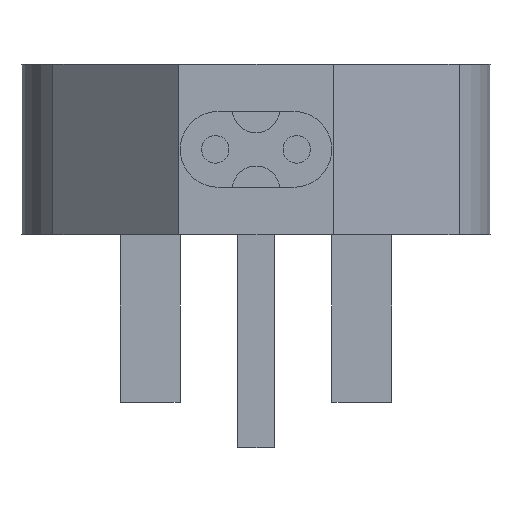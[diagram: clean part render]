
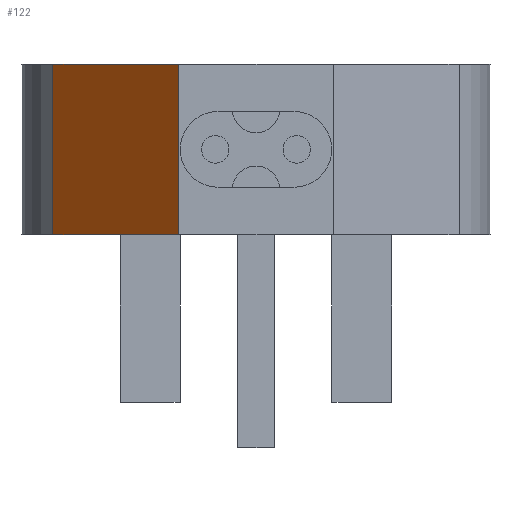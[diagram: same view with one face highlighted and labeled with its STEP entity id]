
A CAD part, front view. The second image highlights one B-rep face of the part: STEP entity #122.
In plain terms, the highlighted planar face has unit normal (-0.719, -0.695, 0).
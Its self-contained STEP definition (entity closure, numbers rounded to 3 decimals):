
#122 = ADVANCED_FACE( '', ( #268 ), #269, .T. );
#268 = FACE_OUTER_BOUND( '', #434, .T. );
#269 = PLANE( '', #435 );
#434 = EDGE_LOOP( '', ( #737, #738, #739, #740 ) );
#435 = AXIS2_PLACEMENT_3D( '', #741, #742, #743 );
#737 = ORIENTED_EDGE( '', *, *, #966, .F. );
#738 = ORIENTED_EDGE( '', *, *, #1078, .T. );
#739 = ORIENTED_EDGE( '', *, *, #1079, .T. );
#740 = ORIENTED_EDGE( '', *, *, #990, .F. );
#741 = CARTESIAN_POINT( '', ( -3.862, 263.348, 11. ) );
#742 = DIRECTION( '', ( -0.719, -0.695, 0. ) );
#743 = DIRECTION( '', ( 0.695, -0.719, 0. ) );
#966 = EDGE_CURVE( '', #1142, #1144, #1145, .T. );
#990 = EDGE_CURVE( '', #1144, #1168, #1186, .T. );
#1078 = EDGE_CURVE( '', #1142, #1323, #1324, .T. );
#1079 = EDGE_CURVE( '', #1323, #1168, #1325, .T. );
#1142 = VERTEX_POINT( '', #1400 );
#1144 = VERTEX_POINT( '', #1403 );
#1145 = LINE( '', #1404, #1405 );
#1168 = VERTEX_POINT( '', #1436 );
#1186 = LINE( '', #1462, #1463 );
#1323 = VERTEX_POINT( '', #1655 );
#1324 = LINE( '', #1656, #1657 );
#1325 = LINE( '', #1658, #1659 );
#1400 = CARTESIAN_POINT( '', ( -3.862, 263.348, 9. ) );
#1403 = CARTESIAN_POINT( '', ( -3.862, 263.348, -9. ) );
#1404 = CARTESIAN_POINT( '', ( -3.862, 263.348, 11. ) );
#1405 = VECTOR( '', #1742, 1000. );
#1436 = CARTESIAN_POINT( '', ( -17.122, 277.08, -9. ) );
#1462 = CARTESIAN_POINT( '', ( -3.862, 263.348, -9. ) );
#1463 = VECTOR( '', #1771, 1000. );
#1655 = CARTESIAN_POINT( '', ( -17.122, 277.08, 9. ) );
#1656 = CARTESIAN_POINT( '', ( -3.862, 263.348, 9. ) );
#1657 = VECTOR( '', #1863, 1000. );
#1658 = CARTESIAN_POINT( '', ( -17.122, 277.08, 11. ) );
#1659 = VECTOR( '', #1864, 1000. );
#1742 = DIRECTION( '', ( 0., 0., -1. ) );
#1771 = DIRECTION( '', ( -0.695, 0.719, 0. ) );
#1863 = DIRECTION( '', ( -0.695, 0.719, 0. ) );
#1864 = DIRECTION( '', ( 0., 0., -1. ) );
